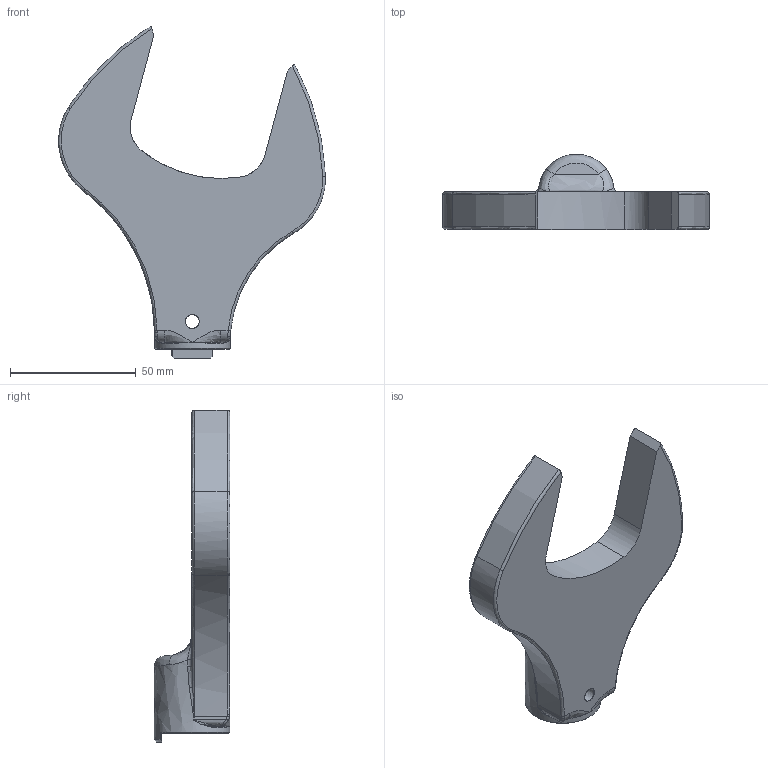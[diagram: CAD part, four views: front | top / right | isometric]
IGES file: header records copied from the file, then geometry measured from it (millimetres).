
Global section: file name: SH22DX55; native system: Autodesk Inventor 2016; preprocessor: unknown; author: Q600; date: 20151029.174212; units: millimetre
Bounding box: 105.99 x 30 x 131.94 mm (x, y, z)
Volume: 90091.9 mm3; surface area: 21372.3 mm2
Topology: 1 solids, 1 shells, 94 faces, 245 edges, 146 vertices
Faces by surface type: bspline 94
